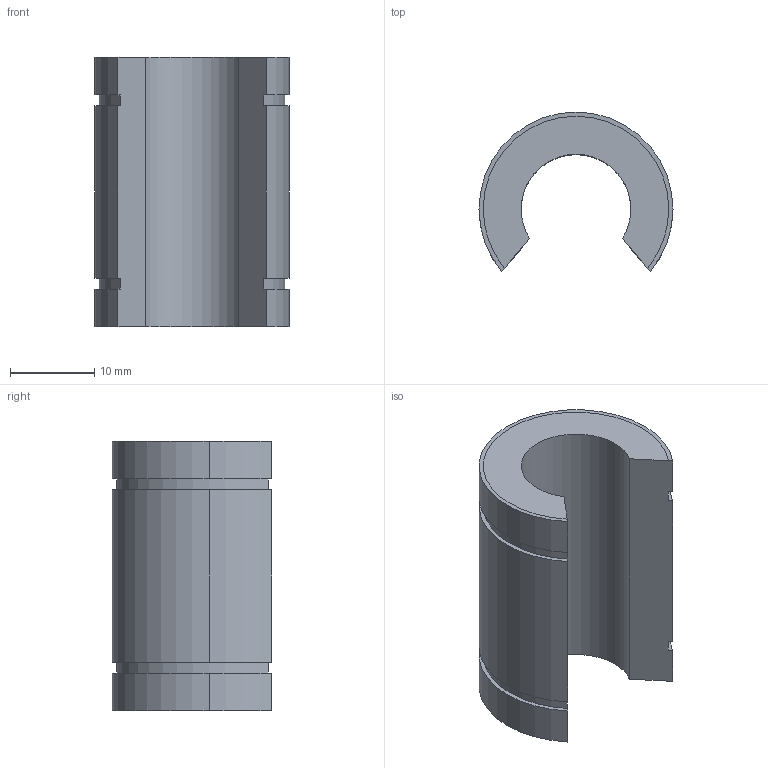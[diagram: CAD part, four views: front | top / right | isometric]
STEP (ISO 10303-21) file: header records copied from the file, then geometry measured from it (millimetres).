
FILE_DESCRIPTION((''),'2;1');
FILE_NAME('C:\Documents and Settings\ｿﾀﾀ蠑ｷ1\ｹﾙﾅﾁ ﾈｭｸ饅\ｺﾎﾇｰﾆﾄﾀﾏ\ﾁｦﾇｰ\LM__UUOP\LM13UUOP.stp','2005-06-14T16:15:45',('ｿﾀﾀ蠑ｷ1'),(''),'Autodesk Inventor 9','Autodesk Inventor 9','');
FILE_SCHEMA(('AUTOMOTIVE_DESIGN { 1 0 10303 214 1 1 1 1 }'));
Length unit declared in the file: millimetre
Products named in the file (1): LM__
Bounding box: 23 x 18.9 x 32 mm (x, y, z)
Volume: 6329.4 mm3; surface area: 3379.4 mm2
Topology: 1 solids, 1 shells, 26 faces, 72 edges, 48 vertices
Faces by surface type: cylinder 16, plane 10
Entity records: 873 total; most frequent: DIRECTION 160, CARTESIAN_POINT 147, ORIENTED_EDGE 144, EDGE_CURVE 72, AXIS2_PLACEMENT_3D 61, VERTEX_POINT 48, VECTOR 38, LINE 38
